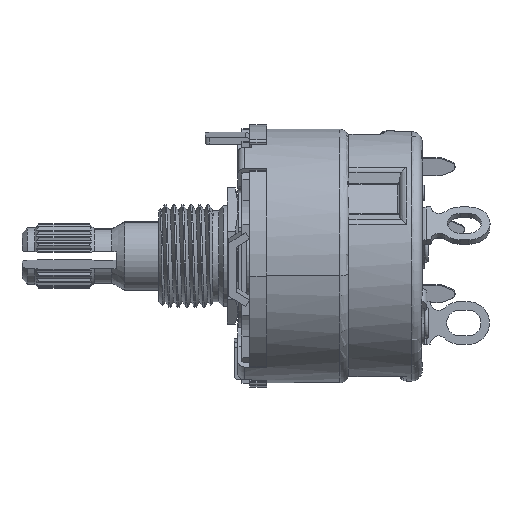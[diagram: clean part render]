
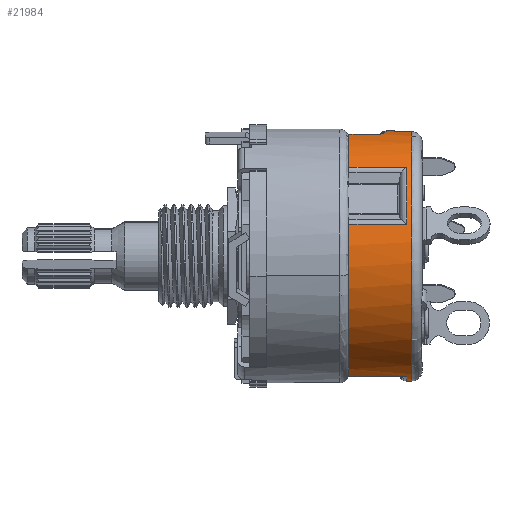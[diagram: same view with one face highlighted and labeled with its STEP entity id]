
A CAD part, left-side view. The second image highlights one B-rep face of the part: STEP entity #21984.
In plain terms, the highlighted cylindrical face has radius 11.608 mm (diameter 23.216 mm), a partial arc.
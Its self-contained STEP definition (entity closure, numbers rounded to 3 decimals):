
#352 = LINE ( 'NONE', #3697, #22557 ) ;
#520 = DIRECTION ( 'NONE',  ( 0., 0., 1. ) ) ;
#1378 = DIRECTION ( 'NONE',  ( 0., 0., 1. ) ) ;
#1446 = CIRCLE ( 'NONE', #12926, 11.608 ) ;
#1563 = CARTESIAN_POINT ( 'NONE',  ( -8.164, 1.448, 8.251 ) ) ;
#1746 = CIRCLE ( 'NONE', #8368, 11.608 ) ;
#2002 = DIRECTION ( 'NONE',  ( 0., 1., 0. ) ) ;
#2101 = VECTOR ( 'NONE', #4205, 1000. ) ;
#2327 = EDGE_CURVE ( 'NONE', #10106, #31270, #15782, .T. ) ;
#2595 = CARTESIAN_POINT ( 'NONE',  ( 0., 2.565, 11.608 ) ) ;
#2597 = CARTESIAN_POINT ( 'NONE',  ( 0., 0.457, 0. ) ) ;
#2822 = B_SPLINE_CURVE_WITH_KNOTS ( 'NONE', 3,
 ( #20128, #28227, #31240, #31615, #22570, #5844, #17291, #17480, #28779, #22747, #14122, #31419 ),
 .UNSPECIFIED., .F., .F.,
 ( 4, 2, 2, 2, 2, 4 ),
 ( 0., 0., 0.001, 0.001, 0.002, 0.002 ),
 .UNSPECIFIED. ) ;
#3349 = CARTESIAN_POINT ( 'NONE',  ( -11.228, 6.807, 2.945 ) ) ;
#3576 = CARTESIAN_POINT ( 'NONE',  ( 0., 2.565, 0. ) ) ;
#3626 = EDGE_CURVE ( 'NONE', #15747, #19543, #32640, .T. ) ;
#3697 = CARTESIAN_POINT ( 'NONE',  ( -8.164, 0.457, 8.251 ) ) ;
#3773 = VERTEX_POINT ( 'NONE', #22396 ) ;
#4153 = ORIENTED_EDGE ( 'NONE', *, *, #7912, .T. ) ;
#4179 = EDGE_CURVE ( 'NONE', #30948, #10500, #19631, .T. ) ;
#4205 = DIRECTION ( 'NONE',  ( 0., -1., 0. ) ) ;
#4329 = CARTESIAN_POINT ( 'NONE',  ( 0., 0.965, 0. ) ) ;
#4546 = ORIENTED_EDGE ( 'NONE', *, *, #36883, .F. ) ;
#4944 = EDGE_CURVE ( 'NONE', #3773, #18638, #1446, .T. ) ;
#5048 = VERTEX_POINT ( 'NONE', #3349 ) ;
#5348 = DIRECTION ( 'NONE',  ( 0., -1., 0. ) ) ;
#5419 = ORIENTED_EDGE ( 'NONE', *, *, #33860, .T. ) ;
#5679 = ORIENTED_EDGE ( 'NONE', *, *, #2327, .T. ) ;
#5844 = CARTESIAN_POINT ( 'NONE',  ( -2.283, 3.583, 11.382 ) ) ;
#5962 = CARTESIAN_POINT ( 'NONE',  ( 0., 1.448, 0. ) ) ;
#6268 = DIRECTION ( 'NONE',  ( 0., 1., 0. ) ) ;
#7034 = DIRECTION ( 'NONE',  ( 0., -1., 0. ) ) ;
#7072 = DIRECTION ( 'NONE',  ( 0., 1., 0. ) ) ;
#7198 = CARTESIAN_POINT ( 'NONE',  ( 0., 3.353, 0. ) ) ;
#7371 = VERTEX_POINT ( 'NONE', #33874 ) ;
#7912 = EDGE_CURVE ( 'NONE', #18808, #10106, #352, .T. ) ;
#8368 = AXIS2_PLACEMENT_3D ( 'NONE', #20536, #6268, #14532 ) ;
#8376 = LINE ( 'NONE', #32068, #14529 ) ;
#8433 = DIRECTION ( 'NONE',  ( 0., -1., 0. ) ) ;
#8534 = VECTOR ( 'NONE', #2002, 1000. ) ;
#8545 = CARTESIAN_POINT ( 'NONE',  ( 0., 0.457, 11.608 ) ) ;
#8927 = DIRECTION ( 'NONE',  ( 0., -1., 0. ) ) ;
#9657 = CARTESIAN_POINT ( 'NONE',  ( 0., 3.353, 11.608 ) ) ;
#10106 = VERTEX_POINT ( 'NONE', #1563 ) ;
#10500 = VERTEX_POINT ( 'NONE', #2595 ) ;
#11054 = CARTESIAN_POINT ( 'NONE',  ( -2.717, 0.457, 11.285 ) ) ;
#11335 = CARTESIAN_POINT ( 'NONE',  ( -2.717, 4.216, 11.285 ) ) ;
#12131 = VECTOR ( 'NONE', #5348, 1000. ) ;
#12515 = CARTESIAN_POINT ( 'NONE',  ( 0., 1.448, -11.608 ) ) ;
#12791 = ORIENTED_EDGE ( 'NONE', *, *, #17937, .T. ) ;
#12926 = AXIS2_PLACEMENT_3D ( 'NONE', #4329, #32572, #32387 ) ;
#13016 = DIRECTION ( 'NONE',  ( 0., -1., 0. ) ) ;
#13511 = CARTESIAN_POINT ( 'NONE',  ( -3.064, 1.448, -11.196 ) ) ;
#14122 = CARTESIAN_POINT ( 'NONE',  ( -2.717, 4.134, 11.285 ) ) ;
#14529 = VECTOR ( 'NONE', #8927, 1000. ) ;
#14532 = DIRECTION ( 'NONE',  ( 0., 0., 1. ) ) ;
#15443 = VERTEX_POINT ( 'NONE', #23113 ) ;
#15747 = VERTEX_POINT ( 'NONE', #13511 ) ;
#15782 = CIRCLE ( 'NONE', #22380, 11.608 ) ;
#15960 = ORIENTED_EDGE ( 'NONE', *, *, #18465, .T. ) ;
#16172 = VERTEX_POINT ( 'NONE', #11335 ) ;
#16508 = FACE_OUTER_BOUND ( 'NONE', #23163, .T. ) ;
#16855 = ORIENTED_EDGE ( 'NONE', *, *, #33228, .F. ) ;
#16876 = DIRECTION ( 'NONE',  ( 0., -1., 0. ) ) ;
#16877 = CYLINDRICAL_SURFACE ( 'NONE', #31683, 11.608 ) ;
#17291 = CARTESIAN_POINT ( 'NONE',  ( -2.422, 3.668, 11.353 ) ) ;
#17480 = CARTESIAN_POINT ( 'NONE',  ( -2.584, 3.841, 11.317 ) ) ;
#17625 = DIRECTION ( 'NONE',  ( 0., -1., 0. ) ) ;
#17791 = ORIENTED_EDGE ( 'NONE', *, *, #20946, .T. ) ;
#17937 = EDGE_CURVE ( 'NONE', #15443, #16172, #2822, .T. ) ;
#18465 = EDGE_CURVE ( 'NONE', #37083, #15747, #32998, .T. ) ;
#18638 = VERTEX_POINT ( 'NONE', #23886 ) ;
#18808 = VERTEX_POINT ( 'NONE', #25367 ) ;
#18865 = CARTESIAN_POINT ( 'NONE',  ( -1.321, 2.184, 11.532 ) ) ;
#19543 = VERTEX_POINT ( 'NONE', #12515 ) ;
#19631 = LINE ( 'NONE', #8545, #12131 ) ;
#20006 = VECTOR ( 'NONE', #27143, 1000. ) ;
#20128 = CARTESIAN_POINT ( 'NONE',  ( -1.209, 3.353, 11.545 ) ) ;
#20222 = CIRCLE ( 'NONE', #22633, 11.608 ) ;
#20281 = ORIENTED_EDGE ( 'NONE', *, *, #4944, .T. ) ;
#20371 = AXIS2_PLACEMENT_3D ( 'NONE', #3576, #29180, #23690 ) ;
#20536 = CARTESIAN_POINT ( 'NONE',  ( 0., 6.807, 0. ) ) ;
#20592 = ORIENTED_EDGE ( 'NONE', *, *, #22049, .T. ) ;
#20946 = EDGE_CURVE ( 'NONE', #31270, #5048, #33412, .T. ) ;
#21026 = EDGE_CURVE ( 'NONE', #19543, #3773, #8376, .T. ) ;
#21055 = CARTESIAN_POINT ( 'NONE',  ( -3.064, 6.807, -11.196 ) ) ;
#21128 = CARTESIAN_POINT ( 'NONE',  ( -3.064, 0.457, -11.196 ) ) ;
#21336 = CARTESIAN_POINT ( 'NONE',  ( 0., 6.807, 0. ) ) ;
#21463 = VECTOR ( 'NONE', #22519, 1000. ) ;
#21984 = ADVANCED_FACE ( 'NONE', ( #16508 ), #16877, .T. ) ;
#22049 = EDGE_CURVE ( 'NONE', #16172, #30445, #25329, .T. ) ;
#22380 = AXIS2_PLACEMENT_3D ( 'NONE', #5962, #16876, #520 ) ;
#22396 = CARTESIAN_POINT ( 'NONE',  ( 0., 0.965, -11.608 ) ) ;
#22519 = DIRECTION ( 'NONE',  ( 0., 1., 0. ) ) ;
#22557 = VECTOR ( 'NONE', #17625, 1000. ) ;
#22570 = CARTESIAN_POINT ( 'NONE',  ( -1.99, 3.457, 11.437 ) ) ;
#22633 = AXIS2_PLACEMENT_3D ( 'NONE', #21336, #7072, #29450 ) ;
#22747 = CARTESIAN_POINT ( 'NONE',  ( -2.698, 4.054, 11.29 ) ) ;
#22823 = ORIENTED_EDGE ( 'NONE', *, *, #4179, .F. ) ;
#22837 = AXIS2_PLACEMENT_3D ( 'NONE', #7198, #13016, #33339 ) ;
#22990 = AXIS2_PLACEMENT_3D ( 'NONE', #33158, #7034, #1378 ) ;
#23113 = CARTESIAN_POINT ( 'NONE',  ( -1.209, 3.353, 11.545 ) ) ;
#23163 = EDGE_LOOP ( 'NONE', ( #22823, #23221, #12791, #20592, #4546, #4153, #5679, #17791, #16855, #15960, #30756, #25461, #20281, #36617, #5419 ) ) ;
#23221 = ORIENTED_EDGE ( 'NONE', *, *, #36204, .T. ) ;
#23690 = DIRECTION ( 'NONE',  ( 0., 0., 1. ) ) ;
#23886 = CARTESIAN_POINT ( 'NONE',  ( -1.321, 0.965, 11.532 ) ) ;
#25329 = LINE ( 'NONE', #11054, #21463 ) ;
#25367 = CARTESIAN_POINT ( 'NONE',  ( -8.164, 6.807, 8.251 ) ) ;
#25461 = ORIENTED_EDGE ( 'NONE', *, *, #21026, .T. ) ;
#26317 = EDGE_CURVE ( 'NONE', #7371, #18638, #32820, .T. ) ;
#27143 = DIRECTION ( 'NONE',  ( 0., -1., 0. ) ) ;
#28227 = CARTESIAN_POINT ( 'NONE',  ( -1.369, 3.353, 11.528 ) ) ;
#28779 = CARTESIAN_POINT ( 'NONE',  ( -2.632, 3.907, 11.306 ) ) ;
#29180 = DIRECTION ( 'NONE',  ( 0., 1., 0. ) ) ;
#29450 = DIRECTION ( 'NONE',  ( 0., 0., 1. ) ) ;
#30445 = VERTEX_POINT ( 'NONE', #33991 ) ;
#30756 = ORIENTED_EDGE ( 'NONE', *, *, #3626, .T. ) ;
#30812 = DIRECTION ( 'NONE',  ( 0., 0., -1. ) ) ;
#30948 = VERTEX_POINT ( 'NONE', #9657 ) ;
#31240 = CARTESIAN_POINT ( 'NONE',  ( -1.527, 3.364, 11.508 ) ) ;
#31270 = VERTEX_POINT ( 'NONE', #31440 ) ;
#31419 = CARTESIAN_POINT ( 'NONE',  ( -2.717, 4.216, 11.285 ) ) ;
#31440 = CARTESIAN_POINT ( 'NONE',  ( -11.228, 1.448, 2.945 ) ) ;
#31615 = CARTESIAN_POINT ( 'NONE',  ( -1.837, 3.417, 11.463 ) ) ;
#31683 = AXIS2_PLACEMENT_3D ( 'NONE', #2597, #8433, #30812 ) ;
#32068 = CARTESIAN_POINT ( 'NONE',  ( 0., 0.457, -11.608 ) ) ;
#32387 = DIRECTION ( 'NONE',  ( 0., 0., 1. ) ) ;
#32572 = DIRECTION ( 'NONE',  ( 0., 1., 0. ) ) ;
#32640 = CIRCLE ( 'NONE', #22990, 11.608 ) ;
#32820 = LINE ( 'NONE', #18865, #20006 ) ;
#32998 = LINE ( 'NONE', #21128, #2101 ) ;
#33158 = CARTESIAN_POINT ( 'NONE',  ( 0., 1.448, 0. ) ) ;
#33228 = EDGE_CURVE ( 'NONE', #37083, #5048, #1746, .T. ) ;
#33339 = DIRECTION ( 'NONE',  ( 0., 0., 1. ) ) ;
#33412 = LINE ( 'NONE', #33772, #8534 ) ;
#33688 = CIRCLE ( 'NONE', #22837, 11.608 ) ;
#33772 = CARTESIAN_POINT ( 'NONE',  ( -11.228, 0.457, 2.945 ) ) ;
#33860 = EDGE_CURVE ( 'NONE', #7371, #10500, #34227, .T. ) ;
#33874 = CARTESIAN_POINT ( 'NONE',  ( -1.321, 2.565, 11.532 ) ) ;
#33991 = CARTESIAN_POINT ( 'NONE',  ( -2.717, 6.807, 11.285 ) ) ;
#34227 = CIRCLE ( 'NONE', #20371, 11.608 ) ;
#36204 = EDGE_CURVE ( 'NONE', #30948, #15443, #33688, .T. ) ;
#36617 = ORIENTED_EDGE ( 'NONE', *, *, #26317, .F. ) ;
#36883 = EDGE_CURVE ( 'NONE', #18808, #30445, #20222, .T. ) ;
#37083 = VERTEX_POINT ( 'NONE', #21055 ) ;
